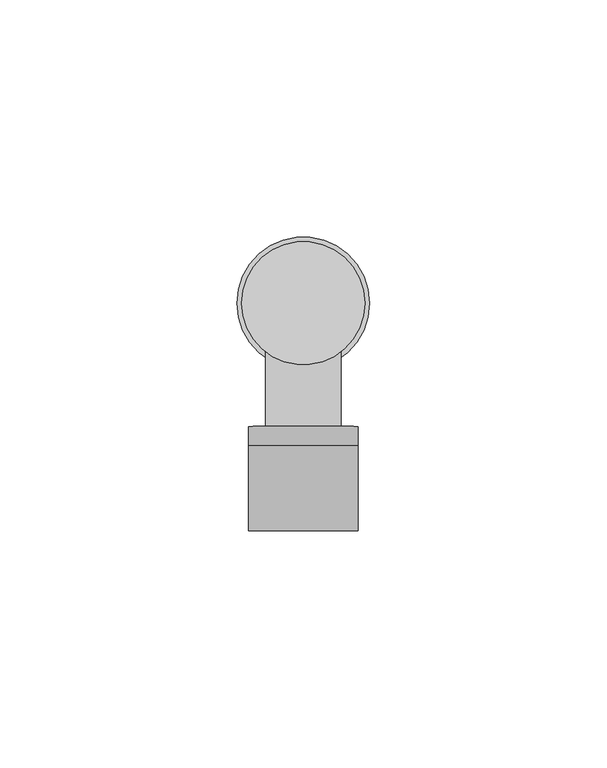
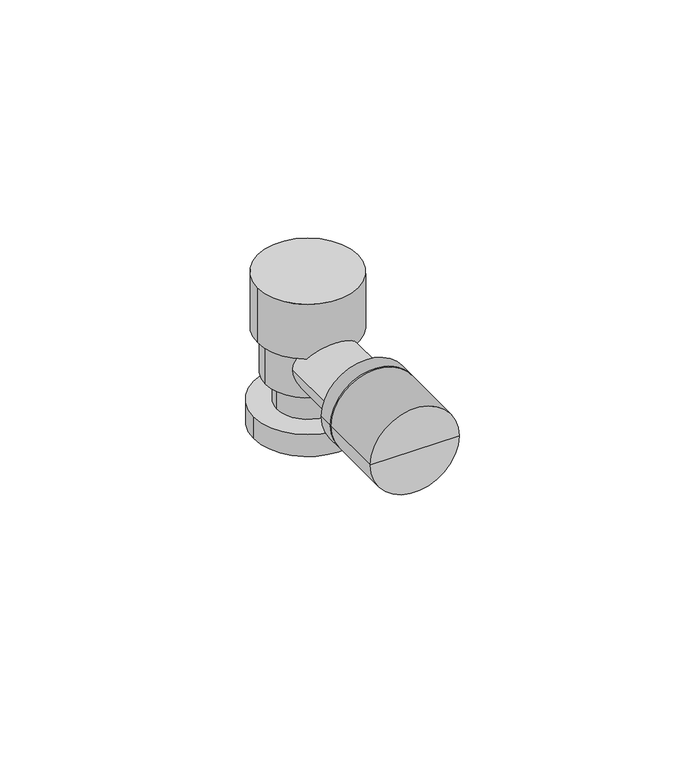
"""IFC4 building model written with IfcOpenShell, lengths in millimetres: pipe fitting geometry, KAN-therm Push 18x2 podejście do baterii krótkie : KAN-therm Push 18x2 podejście do baterii krótkie."""

from ifc_helpers import new_model, si_unit, point, frame, origin, origin_2d, place, context, project, spatial, circle_curve, trimmed, segment, composite_curve, outline, extrude, source, transform, mapped, element, save
from ifc_brep_helpers import plane_surface, cylinder_surface, advanced_brep


def pipe_fitting_632f2332(model_context):
    return source(origin(), model_context, "Body", "SolidModel", [
        advanced_brep(
        [(-11.5, -30.0, 0.0), (11.5, -30.0, 0.0), (0.0, -30.0, 0.0), (-11.5, -26.0, 0.0), (11.5, -26.0, 0.0), (0.0, -26.0, 0.0)],
        [
            (0, 1, circle_curve(frame((0.0, -30.0, 0.0), z_axis=(0.0, -1.0, 0.0), x_axis=(1.0000000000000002, 0.0, 0.0)), 11.5)),
            (1, 2),
            (2, 0),
            (1, 0, circle_curve(frame((0.0, -30.0, 0.0), z_axis=(0.0, -1.0, 0.0), x_axis=(1.0000000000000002, 0.0, 0.0)), 11.5)),
            (3, 4, circle_curve(frame((0.0, -26.0, 0.0), z_axis=(0.0, -1.0, 0.0), x_axis=(1.0000000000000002, 0.0, 0.0)), 11.5)),
            (4, 1),
            (0, 3),
            (4, 3, circle_curve(frame((0.0, -26.0, 0.0), z_axis=(0.0, -1.0, 0.0), x_axis=(1.0000000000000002, 0.0, 0.0)), 11.5)),
            (5, 4),
            (3, 5),
        ],
        [
            plane_surface(frame((0.0, -30.0, 0.0), z_axis=(0.0, -1.0, 0.0), x_axis=(1.0, 0.0, 0.0))),
            cylinder_surface(frame((0.0, -2025.0, 0.0), z_axis=(0.0, 1.0000000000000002, 0.0), x_axis=(1.0000000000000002, 0.0, 0.0)), 11.5),
            plane_surface(frame((0.0, -26.0, 0.0), z_axis=(0.0, 1.0, 0.0), x_axis=(1.0, 0.0, 0.0))),
        ],
        [
            (0, [[1, 2, 3]]),
            (0, [[4, -3, -2]]),
            (1, [[5, 6, -1, 7]]),
            (1, [[8, -7, -4, -6]]),
            (2, [[9, -5, 10]]),
            (2, [[-10, -8, -9]]),
        ],
    ),
        advanced_brep(
        [(-11.5, -48.0, 0.0), (11.5, -48.0, 0.0), (0.0, -48.0, 0.0), (-11.5, -30.0, 0.0), (11.5, -30.0, 0.0), (0.0, -30.0, 0.0)],
        [
            (0, 1, circle_curve(frame((0.0, -48.0, 0.0), z_axis=(0.0, -1.0, 0.0), x_axis=(1.0000000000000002, 0.0, 0.0)), 11.5)),
            (1, 2),
            (2, 0),
            (1, 0, circle_curve(frame((0.0, -48.0, 0.0), z_axis=(0.0, -1.0, 0.0), x_axis=(1.0000000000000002, 0.0, 0.0)), 11.5)),
            (3, 4, circle_curve(frame((0.0, -30.0, 0.0), z_axis=(0.0, -1.0, 0.0), x_axis=(1.0000000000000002, 0.0, 0.0)), 11.5)),
            (4, 1),
            (0, 3),
            (4, 3, circle_curve(frame((0.0, -30.0, 0.0), z_axis=(0.0, -1.0, 0.0), x_axis=(1.0000000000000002, 0.0, 0.0)), 11.5)),
            (5, 4),
            (3, 5),
        ],
        [
            plane_surface(frame((0.0, -48.0, 0.0), z_axis=(0.0, -1.0, 0.0), x_axis=(1.0, 0.0, 0.0))),
            cylinder_surface(frame((0.0, -2025.0, 0.0), z_axis=(0.0, 1.0000000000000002, 0.0), x_axis=(1.0000000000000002, 0.0, 0.0)), 11.5),
            plane_surface(frame((0.0, -30.0, 0.0), z_axis=(0.0, 1.0, 0.0), x_axis=(1.0, 0.0, 0.0))),
        ],
        [
            (0, [[1, 2, 3]]),
            (0, [[4, -3, -2]]),
            (1, [[5, 6, -1, 7]]),
            (1, [[8, -7, -4, -6]]),
            (2, [[9, -5, 10]]),
            (2, [[-10, -8, -9]]),
        ],
    ),
        extrude(outline(composite_curve([segment(trimmed(circle_curve(origin_2d(), 8.0), [point((-8.0, 0.0))], [point((8.0, 0.0))], False, "CARTESIAN"), True, "CONTINUOUS"), segment(trimmed(circle_curve(origin_2d(), 8.0), [point((8.0, 0.0))], [point((-8.0, 0.0))], False, "CARTESIAN"), True, "CONTINUOUS")], self_intersect=False)), frame((0.0, 0.0, -15.0), z_axis=(0.0, 0.0, 1.0), x_axis=(1.0, 0.0, 0.0)), (0.0, 0.0, 1.0), 8.0),
        extrude(outline(composite_curve([segment(trimmed(circle_curve(origin_2d(), 8.0), [point((0.0, -8.0))], [point((0.0, 8.0))], False, "CARTESIAN"), True, "CONTINUOUS"), segment(trimmed(circle_curve(origin_2d(), 8.0), [point((0.0, 8.0))], [point((0.0, -8.0))], False, "CARTESIAN"), True, "CONTINUOUS")], self_intersect=False)), frame((0.0, -30.0, 0.0), z_axis=(0.0, 1.0, 0.0), x_axis=(0.0, 0.0, 1.0)), (0.0, 0.0, 1.0), 30.0),
        extrude(outline(composite_curve([segment(trimmed(circle_curve(origin_2d(), 14.0), [point((-14.0, 0.0))], [point((14.0, 0.0))], False, "CARTESIAN"), True, "CONTINUOUS"), segment(trimmed(circle_curve(origin_2d(), 14.0), [point((14.0, 0.0))], [point((-14.0, 0.0))], False, "CARTESIAN"), True, "CONTINUOUS")], self_intersect=False)), frame((0.0, 0.0, -21.0), z_axis=(0.0, 0.0, 1.0), x_axis=(1.0, 0.0, 0.0)), (0.0, 0.0, 1.0), 6.0),
        extrude(outline(composite_curve([segment(trimmed(circle_curve(origin_2d(), 11.0), [point((-11.0, 0.0))], [point((11.0, 0.0))], False, "CARTESIAN"), True, "CONTINUOUS"), segment(trimmed(circle_curve(origin_2d(), 11.0), [point((11.0, 0.0))], [point((-11.0, 0.0))], False, "CARTESIAN"), True, "CONTINUOUS")], self_intersect=False)), frame((0.0, 0.0, -7.0), z_axis=(0.0, 0.0, 1.0), x_axis=(1.0, 0.0, 0.0)), (0.0, 0.0, 1.0), 15.0),
        extrude(outline(composite_curve([segment(trimmed(circle_curve(origin_2d(), 13.0), [point((-13.0, 0.0))], [point((13.0, 0.0))], False, "CARTESIAN"), True, "CONTINUOUS"), segment(trimmed(circle_curve(origin_2d(), 13.0), [point((13.0, 0.0))], [point((-13.0, 0.0))], False, "CARTESIAN"), True, "CONTINUOUS")], self_intersect=False)), frame((0.0, 0.0, 5.0), z_axis=(0.0, 0.0, 1.0), x_axis=(1.0, 0.0, 0.0)), (0.0, 0.0, 1.0), 15.0),
    ])


if __name__ == "__main__":
    model = new_model("IFC4")
    model_context = context("Model", 3, world=origin())
    ifc_project = project(units=[si_unit("LENGTHUNIT", "METRE", prefix="MILLI")], contexts=[model_context])
    site = spatial("IfcSite", under=ifc_project)
    building = spatial("IfcBuilding", under=site)
    placement = place(None, origin())
    pipe_fitting_shape = pipe_fitting_632f2332(model_context)
    element("IfcPipeFitting", 1, ObjectType="KAN-therm Push 18x2 podejście do baterii krótkie : KAN-therm Push 18x2 podejście do baterii krótkie", at=placement, inside=building, context=model_context, shape_type="MappedRepresentation", body=[
        mapped(pipe_fitting_shape, transform((0.0, 0.0, 0.0), x_axis=(1.0, 0.0, 0.0), y_axis=(0.0, 1.0, 0.0), z_axis=(0.0, 0.0, 1.0))),
    ])
    save(model, "model.ifc")
